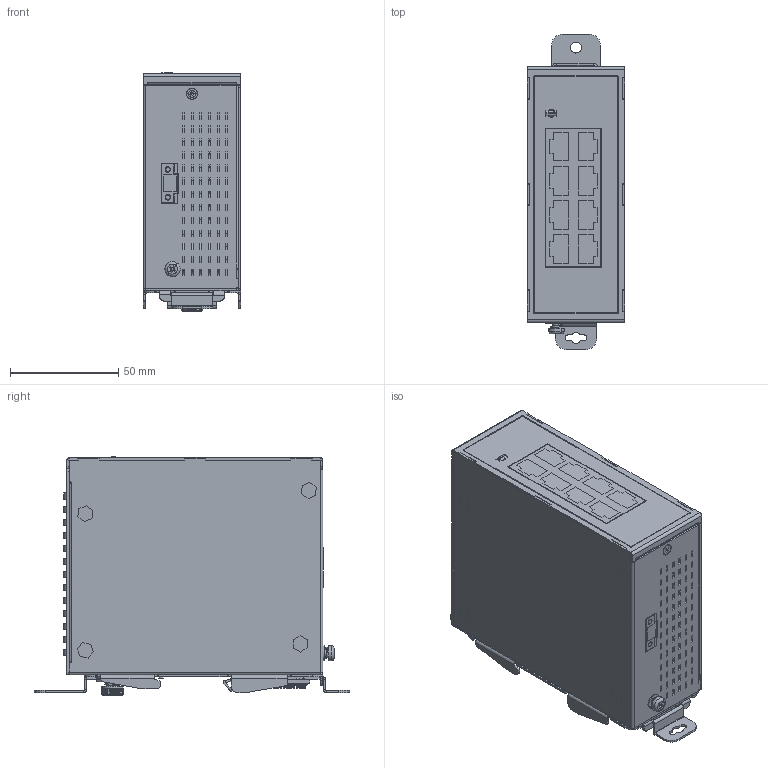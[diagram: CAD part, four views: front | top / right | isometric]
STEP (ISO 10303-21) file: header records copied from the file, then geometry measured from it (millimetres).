
FILE_DESCRIPTION((''),'2;1');
FILE_NAME('DVS-G008I00A-R_ASM','2014-12-08T',('ANDREW.AS.SUN'),(''),'PRO/ENGINEER BY PARAMETRIC TECHNOLOGY CORPORATION, 2010280','PRO/ENGINEER BY PARAMETRIC TECHNOLOGY CORPORATION, 2010280','');
FILE_SCHEMA(('CONFIG_CONTROL_DESIGN'));
Products named in the file (65): PCB-M-8P; 307234467C; TB293; PCBA_DVS-G008I00A-R_ASM; 3991141200_BASE-----; STUD_M3_0; STUD_M3_0-S; 3991141200_BASE_ASM; 3991141100_COVER; 3991161200_PANEL; DVS-G008I00B_20130503B; IC_QFN16-D5_TPS54319; LS2R103X105X040-9; LS2R069X066X028-6D06; RS1206; CS2220; PCB_COUPON; MLQC_5; TD_L4; DSSOT-23A-6; GDTS2R044X050X050-3D9; LFD-G4P109NM-ALFA-72; MF40C120; MTD1SQ1D4_BC1D4; MS1_3D2_8; MS1_4D2_8; CS0805; CD2C160X250-7D5; CS0603; CNDPM2-3D81RWB; CS1206; SGS1210; DSSMBA; FS2410; CS1812; CS0402; SS2T060X035-5D4; LS0603; LED1X1A040X050-2K; RS0603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
Assembly tree (332 placements, depth 3):
  DVS-G008I00A-R_ASM
    PCBA_DVS-G008I00A-R_ASM
      PCB-M-8P
      307234467C
      TB293
    3991141200_BASE_ASM
      3991141200_BASE-----
      STUD_M3_0  x2
      STUD_M3_0-S  x2
    3991141100_COVER
    3991161200_PANEL
    DVS-G008I00B_20130503B_ASM
      DVS-G008I00B_20130503B
      IC_QFN16-D5_TPS54319
      LS2R103X105X040-9
      LS2R069X066X028-6D06
      RS1206
      CS2220
      PCB_COUPON
      MLQC_5
      TD_L4
      DSSOT-23A-6  x16
      GDTS2R044X050X050-3D9
      LFD-G4P109NM-ALFA-72  x2
      MF40C120  x6
      MTD1SQ1D4_BC1D4  x2
      MS1_3D2_8  x2
      MS1_4D2_8  x2
      CS0805  x3
      CD2C160X250-7D5
      CS0603  x22
      CNDPM2-3D81RWB
      CS1206  x18
      SGS1210  x10
      DSSMBA  x2
      FS2410
      CS1812  x4
      CS0402  x106
      SS2T060X035-5D4
      LS0603  x6
      LED1X1A040X050-2K
      RS0603  x7
      RS0402  x67
      DSPOWERDI5-3
      LD4R130X170X170-5
      XS4R025X032X006A-2D1
      IC_SOT143-1D92
      IC_SOIC8A-1D27
      IC_MSOP10A-D5_TPS54260DGQR
      CNDRJXL2X4A-102E
      IC_LQFP128EA-D5_RT8370
    3246193400_INSULATOR
    _DVS-G008I00B_20130503B_TOP
    _DVS-G008I00B_20130503B_BOT
    3347156100_HSK
    3205290300_NAMEPLATE
    3534306500_ME-KIT_ASM
      BACK_PLATE_2
      SNAP
      SPRING
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Bounding box: 45 x 145.3 x 110.08 mm (x, y, z)
Volume: 209936.2 mm3; surface area: 229883 mm2
Topology: 325 solids, 332 shells, 5572 faces, 13912 edges, 9027 vertices
Faces by surface type: plane 3993, cylinder 1344, bspline 101, cone 94, torus 40
Entity records: 97758 total; most frequent: CARTESIAN_POINT 28331, DIRECTION 14533, ORIENTED_EDGE 13633, EDGE_CURVE 6846, VECTOR 4909, LINE 4909, AXIS2_PLACEMENT_3D 4812, VERTEX_POINT 4336
